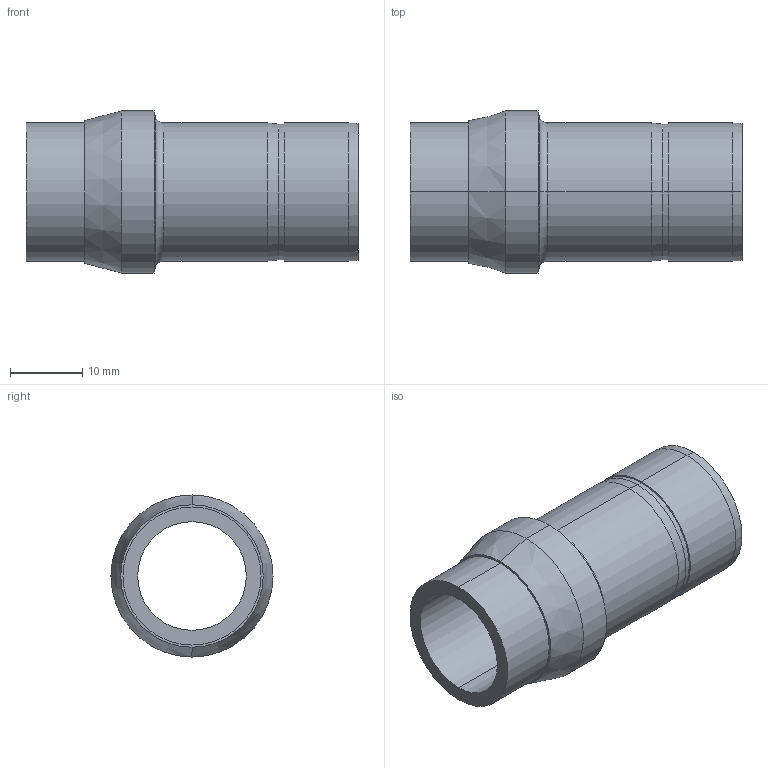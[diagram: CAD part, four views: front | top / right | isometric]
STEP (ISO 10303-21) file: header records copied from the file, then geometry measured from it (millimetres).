
FILE_DESCRIPTION (( 'STEP AP203' ), '1' );
FILE_NAME ('DPC12-12 SS.STEP', '2009-09-08T08:33:46', ( ' ' ), ( '' ), 'SwSTEP 2.0', 'SolidWorks 2008', '' );
FILE_SCHEMA (( 'CONFIG_CONTROL_DESIGN' ));
Length unit declared in the file: millimetre
Products named in the file (1): DPC12-12 SS
Bounding box: 45.8 x 22.35 x 22.35 mm (x, y, z)
Volume: 5771.6 mm3; surface area: 5293.4 mm2
Topology: 1 solids, 1 shells, 27 faces, 54 edges, 30 vertices
Faces by surface type: cylinder 12, cone 10, plane 3, torus 2
Entity records: 777 total; most frequent: DIRECTION 142, CARTESIAN_POINT 112, ORIENTED_EDGE 108, AXIS2_PLACEMENT_3D 60, EDGE_CURVE 54, CIRCLE 32, EDGE_LOOP 30, VERTEX_POINT 30
